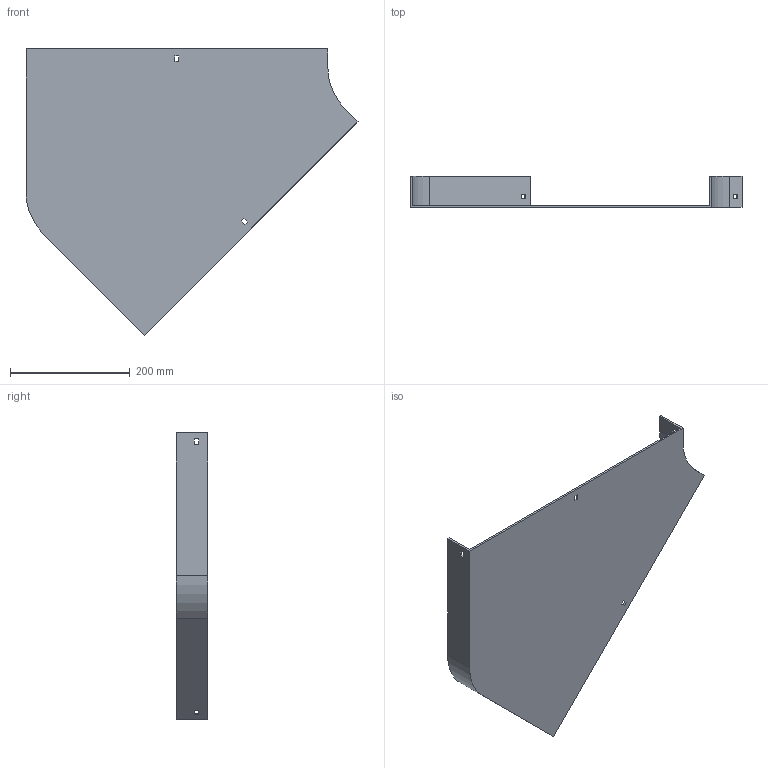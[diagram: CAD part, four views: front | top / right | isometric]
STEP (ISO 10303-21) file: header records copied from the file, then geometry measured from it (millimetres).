
FILE_DESCRIPTION (( 'STEP AP214' ), '1' );
FILE_NAME ('11F1B500.step', '2025-02-21T12:55:46', ( '' ), ( '' ), 'SwSTEP 2.0', 'SolidWorks 2023', '' );
FILE_SCHEMA (( 'AUTOMOTIVE_DESIGN' ));
Length unit declared in the file: millimetre
Products named in the file (1): 11F1B500
Bounding box: 554.5 x 52 x 478.31 mm (x, y, z)
Volume: 736753.6 mm3; surface area: 428333.2 mm2
Topology: 1 solids, 1 shells, 42 faces, 120 edges, 80 vertices
Faces by surface type: plane 38, cylinder 4
Entity records: 1399 total; most frequent: CARTESIAN_POINT 243, ORIENTED_EDGE 240, DIRECTION 214, EDGE_CURVE 120, LINE 112, VECTOR 112, VERTEX_POINT 80, EDGE_LOOP 54
